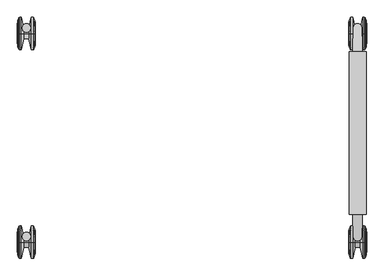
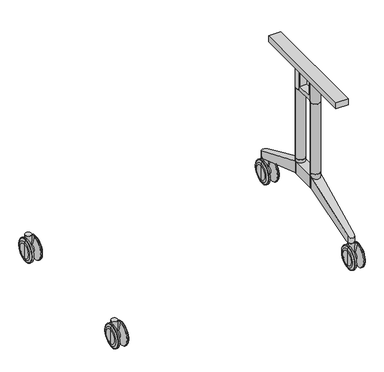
"""IFC4 building model written with IfcOpenShell, lengths in millimetres: furniture geometry."""

from ifc_helpers import new_model, si_unit, point, frame, frame_2d, origin, place, context, project, spatial, polyline, circle_curve, ellipse_curve, trimmed, segment, composite_curve, outline, extrude, source, transform, mapped, element, save
from ifc_brep_helpers import plane_surface, cylinder_surface, revolved_surface, advanced_brep


def furniture_a7c4bc05(model_context):
    return source(origin(), model_context, "Body", "SolidModel", [
        advanced_brep(
        [(535.500346, 204.1135107, 49.9999988), (535.500346, 204.1135107, 19.8683152), (535.500346, 204.1135107, 80.1316828), (480.5003238, 204.1135107, 19.8683152), (480.5003238, 204.1135107, 49.9999988), (480.5003238, 204.1135107, 80.1316828), (484.8165382, 204.1135107, 2.051318), (482.0398166, 204.1135107, 10.381507), (482.0398166, 204.1135107, 89.6184911), (484.8165382, 204.1135107, 97.9486801), (492.500318, 204.1135107, -1.2e-06), (487.6625889, 204.1135107, -1.2e-06), (487.6625889, 204.1135107, 99.9999992), (492.500318, 204.1135107, 99.9999992), (500.5003021, 204.1135107, 35.0000003), (500.5003021, 204.1135107, 64.9999978), (515.5003676, 204.1135107, 35.0000003), (515.5003676, 204.1135107, 64.9999978), (523.5003517, 204.1135107, -1.2e-06), (523.5003517, 204.1135107, 99.9999992), (528.3380808, 204.1135107, -1.2e-06), (528.3380808, 204.1135107, 99.9999992), (533.9608532, 204.1135107, 10.381507), (531.1841316, 204.1135107, 2.051318), (531.1841316, 204.1135107, 97.9486801), (533.9608532, 204.1135107, 89.6184911)],
        [
            (0, 1),
            (1, 2, circle_curve(frame((535.500346, 204.1135107, 49.999999), z_axis=(1.0, 0.0, 0.0), x_axis=(0.0, 0.0, 1.0)), 30.1316838)),
            (2, 0),
            (2, 1, circle_curve(frame((535.500346, 204.1135107, 49.999999), z_axis=(1.0, 0.0, 0.0), x_axis=(0.0, 0.0, 1.0)), 30.1316838)),
            (3, 4),
            (4, 5),
            (5, 3, circle_curve(frame((480.5003238, 204.1135107, 49.999999), z_axis=(-1.0, 0.0, 0.0), x_axis=(0.0, 0.0, 1.0)), 30.1316838)),
            (3, 5, circle_curve(frame((480.5003238, 204.1135107, 49.999999), z_axis=(-1.0, 0.0, 0.0), x_axis=(0.0, 0.0, 1.0)), 30.1316838)),
            (6, 7),
            (7, 8, circle_curve(frame((482.0398166, 204.1135107, 49.999999), z_axis=(1.0, 0.0, 0.0), x_axis=(0.0, 0.0, 1.0)), 39.618492)),
            (8, 9),
            (9, 6, circle_curve(frame((484.8165382, 204.1135107, 49.999999), z_axis=(-1.0, 0.0, 0.0), x_axis=(0.0, 0.0, 1.0)), 47.948681)),
            (8, 7, circle_curve(frame((482.0398166, 204.1135107, 49.999999), z_axis=(1.0, 0.0, 0.0), x_axis=(0.0, 0.0, 1.0)), 39.618492)),
            (6, 9, circle_curve(frame((484.8165382, 204.1135107, 49.999999), z_axis=(-1.0, 0.0, 0.0), x_axis=(0.0, 0.0, 1.0)), 47.948681)),
            (10, 11),
            (11, 12, circle_curve(frame((487.6625889, 204.1135107, 49.999999), z_axis=(1.0, 0.0, 0.0), x_axis=(0.0, 0.0, 1.0)), 50.0000002)),
            (12, 13),
            (13, 10, circle_curve(frame((492.500318, 204.1135107, 49.999999), z_axis=(-1.0, 0.0, 0.0), x_axis=(0.0, 0.0, 1.0)), 50.0000002)),
            (12, 11, circle_curve(frame((487.6625889, 204.1135107, 49.999999), z_axis=(1.0, 0.0, 0.0), x_axis=(0.0, 0.0, 1.0)), 50.0000002)),
            (10, 13, circle_curve(frame((492.500318, 204.1135107, 49.999999), z_axis=(-1.0, 0.0, 0.0), x_axis=(0.0, 0.0, 1.0)), 50.0000002)),
            (14, 10),
            (13, 15),
            (15, 14, circle_curve(frame((500.5003021, 204.1135107, 49.999999), z_axis=(-1.0, 0.0, 0.0), x_axis=(0.0, 0.0, 1.0)), 14.9999987)),
            (14, 15, circle_curve(frame((500.5003021, 204.1135107, 49.999999), z_axis=(-1.0, 0.0, 0.0), x_axis=(0.0, 0.0, 1.0)), 14.9999987)),
            (16, 14),
            (15, 17),
            (17, 16, circle_curve(frame((515.5003676, 204.1135107, 49.999999), z_axis=(-1.0, 0.0, 0.0), x_axis=(0.0, 0.0, 1.0)), 14.9999987)),
            (16, 17, circle_curve(frame((515.5003676, 204.1135107, 49.999999), z_axis=(-1.0, 0.0, 0.0), x_axis=(0.0, 0.0, 1.0)), 14.9999987)),
            (18, 16),
            (17, 19),
            (19, 18, circle_curve(frame((523.5003517, 204.1135107, 49.999999), z_axis=(-1.0, 0.0, 0.0), x_axis=(0.0, 0.0, 1.0)), 50.0000002)),
            (18, 19, circle_curve(frame((523.5003517, 204.1135107, 49.999999), z_axis=(-1.0, 0.0, 0.0), x_axis=(0.0, 0.0, 1.0)), 50.0000002)),
            (20, 18),
            (19, 21),
            (21, 20, circle_curve(frame((528.3380808, 204.1135107, 49.999999), z_axis=(-1.0, 0.0, 0.0), x_axis=(0.0, 0.0, 1.0)), 50.0000002)),
            (20, 21, circle_curve(frame((528.3380808, 204.1135107, 49.999999), z_axis=(-1.0, 0.0, 0.0), x_axis=(0.0, 0.0, 1.0)), 50.0000002)),
            (22, 23),
            (23, 24, circle_curve(frame((531.1841316, 204.1135107, 49.999999), z_axis=(1.0, 0.0, 0.0), x_axis=(0.0, 0.0, 1.0)), 47.948681)),
            (24, 25),
            (25, 22, circle_curve(frame((533.9608532, 204.1135107, 49.999999), z_axis=(-1.0, 0.0, 0.0), x_axis=(0.0, 0.0, 1.0)), 39.618492)),
            (24, 23, circle_curve(frame((531.1841316, 204.1135107, 49.999999), z_axis=(1.0, 0.0, 0.0), x_axis=(0.0, 0.0, 1.0)), 47.948681)),
            (22, 25, circle_curve(frame((533.9608532, 204.1135107, 49.999999), z_axis=(-1.0, 0.0, 0.0), x_axis=(0.0, 0.0, 1.0)), 39.618492)),
            (7, 3, circle_curve(frame((510.5003238, 204.1135107, 19.8683152), z_axis=(0.0, 1.0000000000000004, 0.0), x_axis=(-1.0000000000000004, 0.0, 0.0)), 30.0)),
            (5, 8, circle_curve(frame((510.5003238, 204.1135107, 80.1316828), z_axis=(0.0, 1.0000000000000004, 0.0), x_axis=(-1.0000000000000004, 0.0, 0.0)), 30.0)),
            (11, 6, circle_curve(frame((487.6625889, 204.1135107, 2.9999988), z_axis=(0.0, 1.0000000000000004, 0.0), x_axis=(-1.0000000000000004, 0.0, 0.0)), 3.0)),
            (9, 12, circle_curve(frame((487.6625889, 204.1135107, 96.9999992), z_axis=(0.0, 1.0000000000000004, 0.0), x_axis=(-1.0000000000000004, 0.0, 0.0)), 3.0)),
            (23, 20, circle_curve(frame((528.3380808, 204.1135107, 2.9999988), z_axis=(0.0, 1.0000000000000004, 0.0), x_axis=(-1.0000000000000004, 0.0, 0.0)), 3.0)),
            (21, 24, circle_curve(frame((528.3380808, 204.1135107, 96.9999992), z_axis=(0.0, 1.0000000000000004, 0.0), x_axis=(-1.0000000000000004, 0.0, 0.0)), 3.0)),
            (1, 22, circle_curve(frame((505.500346, 204.1135107, 19.8683152), z_axis=(0.0, 1.0000000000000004, 0.0), x_axis=(-1.0000000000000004, 0.0, 0.0)), 30.0)),
            (25, 2, circle_curve(frame((505.500346, 204.1135107, 80.1316828), z_axis=(0.0, 1.0000000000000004, 0.0), x_axis=(-1.0000000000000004, 0.0, 0.0)), 30.0)),
        ],
        [
            plane_surface(frame((535.500346, 204.1135107, 49.999999), z_axis=(1.0, 0.0, 0.0), x_axis=(0.0, 0.0, 1.0))),
            plane_surface(frame((480.5003238, 204.1135107, 49.999999), z_axis=(-1.0, 0.0, 0.0), x_axis=(0.0, 0.0, 1.0))),
            revolved_surface(polyline([(482.0398166, 204.1135107, 89.6184911), (484.8165382, 204.1135107, 97.9486801)]), (547.0660385, 204.1135107, 49.999999), (1.0000000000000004, 0.0, 0.0)),
            cylinder_surface(frame((547.0660385, 204.1135107, 49.999999), z_axis=(1.0000000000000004, 0.0, 0.0), x_axis=(0.0, 0.0, 1.0)), 50.0000002),
            revolved_surface(polyline([(492.500318, 204.1135107, 99.9999992), (500.5003021, 204.1135107, 64.9999978)]), (547.0660385, 204.1135107, 49.999999), (1.0000000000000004, 0.0, 0.0)),
            cylinder_surface(frame((547.0660385, 204.1135107, 49.999999), z_axis=(1.0000000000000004, 0.0, 0.0), x_axis=(0.0, 0.0, 1.0)), 14.9999987),
            revolved_surface(polyline([(515.5003676, 204.1135107, 64.9999978), (523.5003517, 204.1135107, 99.9999992)]), (547.0660385, 204.1135107, 49.999999), (1.0000000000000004, 0.0, 0.0)),
            revolved_surface(polyline([(531.1841316, 204.1135107, 97.9486801), (533.9608532, 204.1135107, 89.6184911)]), (547.0660385, 204.1135107, 49.999999), (1.0000000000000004, 0.0, 0.0)),
            revolved_surface(trimmed(ellipse_curve(frame((510.5003238, 204.1135107, 80.1316828), z_axis=(0.0, 1.0000000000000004, 0.0), x_axis=(-1.0000000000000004, 0.0, 0.0)), 30.0, 30.0), [point((480.5003238, 204.1135107, 80.1316828))], [point((482.0398166, 204.1135107, 89.6184911))], True, "CARTESIAN"), (547.0660385, 204.1135107, 49.999999), (1.0000000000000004, 0.0, 0.0)),
            revolved_surface(trimmed(ellipse_curve(frame((487.6625889, 204.1135107, 96.9999992), z_axis=(0.0, 1.0000000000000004, 0.0), x_axis=(-1.0000000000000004, 0.0, 0.0)), 3.0, 3.0), [point((484.8165382, 204.1135107, 97.9486801))], [point((487.6625889, 204.1135107, 99.9999992))], True, "CARTESIAN"), (547.0660385, 204.1135107, 49.999999), (1.0000000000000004, 0.0, 0.0)),
            revolved_surface(trimmed(ellipse_curve(frame((528.3380808, 204.1135107, 96.9999992), z_axis=(0.0, 1.0000000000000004, 0.0), x_axis=(-1.0000000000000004, 0.0, 0.0)), 3.0, 3.0), [point((528.3380808, 204.1135107, 99.9999992))], [point((531.1841316, 204.1135107, 97.9486801))], True, "CARTESIAN"), (547.0660385, 204.1135107, 49.999999), (1.0000000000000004, 0.0, 0.0)),
            revolved_surface(trimmed(ellipse_curve(frame((505.500346, 204.1135107, 80.1316828), z_axis=(0.0, 1.0000000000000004, 0.0), x_axis=(-1.0000000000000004, 0.0, 0.0)), 30.0, 30.0), [point((533.9608532, 204.1135107, 89.6184911))], [point((535.500346, 204.1135107, 80.1316828))], True, "CARTESIAN"), (547.0660385, 204.1135107, 49.999999), (1.0000000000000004, 0.0, 0.0)),
        ],
        [
            (0, [[1, 2, 3]]),
            (0, [[-3, 4, -1]]),
            (1, [[5, 6, 7]]),
            (1, [[-6, -5, 8]]),
            (2, [[9, 10, 11, 12]]),
            (2, [[-11, 13, -9, 14]]),
            (3, [[15, 16, 17, 18]]),
            (3, [[-17, 19, -15, 20]]),
            (4, [[21, -18, 22, 23]]),
            (4, [[-22, -20, -21, 24]]),
            (5, [[25, -23, 26, 27]]),
            (5, [[-26, -24, -25, 28]]),
            (6, [[29, -27, 30, 31]]),
            (6, [[-30, -28, -29, 32]]),
            (3, [[33, -31, 34, 35]]),
            (3, [[-34, -32, -33, 36]]),
            (7, [[37, 38, 39, 40]]),
            (7, [[-39, 41, -37, 42]]),
            (8, [[43, -7, 44, -10]]),
            (8, [[-44, -8, -43, -13]]),
            (9, [[45, -12, 46, -16]]),
            (9, [[-46, -14, -45, -19]]),
            (10, [[47, -35, 48, -38]]),
            (10, [[-48, -36, -47, -41]]),
            (11, [[49, -40, 50, -2]]),
            (11, [[-50, -42, -49, -4]]),
        ],
    ),
        extrude(outline(composite_curve([segment(trimmed(circle_curve(frame_2d((508.0003349, 221.5135103)), 13.1), [point((521.1003349, 221.5135103))], [point((494.9003349, 221.5135103))], False, "CARTESIAN"), True, "CONTINUOUS"), segment(trimmed(circle_curve(frame_2d((508.0003349, 221.5135103)), 13.1), [point((494.9003349, 221.5135103))], [point((521.1003349, 221.5135103))], False, "CARTESIAN"), True, "CONTINUOUS")], self_intersect=False)), frame((0.0, 0.0, 50.0), z_axis=(0.0, 0.0, 1.0), x_axis=(1.0, 0.0, 0.0)), (0.0, 0.0, 1.0), 55.0),
        advanced_brep(
        [(480.5003238, -436.9185854, 49.9999992), (480.5003238, -436.9185854, 80.1316828), (480.5003238, -436.9185854, 19.8683152), (535.500346, -436.9185854, 19.8683152), (535.500346, -436.9185854, 80.1316828), (535.500346, -436.9185854, 49.9999992), (531.1841316, -436.9185854, 2.051318), (531.1841316, -436.9185854, 97.9486801), (533.9608532, -436.9185854, 89.6184911), (533.9608532, -436.9185854, 10.381507), (523.5003517, -436.9185854, -1.2e-06), (523.5003517, -436.9185854, 99.9999992), (528.3380808, -436.9185854, 99.9999992), (528.3380808, -436.9185854, -1.2e-06), (515.5003676, -436.9185854, 35.0000003), (515.5003676, -436.9185854, 64.9999978), (500.5003021, -436.9185854, 35.0000003), (500.5003021, -436.9185854, 64.9999978), (492.500318, -436.9185854, -1.2e-06), (492.500318, -436.9185854, 99.9999992), (487.6625889, -436.9185854, -1.2e-06), (487.6625889, -436.9185854, 99.9999992), (482.0398166, -436.9185854, 10.381507), (482.0398166, -436.9185854, 89.6184911), (484.8165382, -436.9185854, 97.9486801), (484.8165382, -436.9185854, 2.051318)],
        [
            (0, 1),
            (1, 2, circle_curve(frame((480.5003238, -436.9185854, 49.999999), z_axis=(-1.0, 0.0, 0.0), x_axis=(0.0, 0.0, 1.0)), 30.1316838)),
            (2, 0),
            (2, 1, circle_curve(frame((480.5003238, -436.9185854, 49.999999), z_axis=(-1.0, 0.0, 0.0), x_axis=(0.0, 0.0, 1.0)), 30.1316838)),
            (3, 4, circle_curve(frame((535.500346, -436.9185854, 49.999999), z_axis=(1.0, 0.0, 0.0), x_axis=(0.0, 0.0, 1.0)), 30.1316838)),
            (4, 5),
            (5, 3),
            (4, 3, circle_curve(frame((535.500346, -436.9185854, 49.999999), z_axis=(1.0, 0.0, 0.0), x_axis=(0.0, 0.0, 1.0)), 30.1316838)),
            (6, 7, circle_curve(frame((531.1841316, -436.9185854, 49.999999), z_axis=(1.0, 0.0, 0.0), x_axis=(0.0, 0.0, 1.0)), 47.948681)),
            (7, 8),
            (8, 9, circle_curve(frame((533.9608532, -436.9185854, 49.999999), z_axis=(-1.0, 0.0, 0.0), x_axis=(0.0, 0.0, 1.0)), 39.618492)),
            (9, 6),
            (7, 6, circle_curve(frame((531.1841316, -436.9185854, 49.999999), z_axis=(1.0, 0.0, 0.0), x_axis=(0.0, 0.0, 1.0)), 47.948681)),
            (9, 8, circle_curve(frame((533.9608532, -436.9185854, 49.999999), z_axis=(-1.0, 0.0, 0.0), x_axis=(0.0, 0.0, 1.0)), 39.618492)),
            (10, 11, circle_curve(frame((523.5003517, -436.9185854, 49.999999), z_axis=(1.0, 0.0, 0.0), x_axis=(0.0, 0.0, 1.0)), 50.0000002)),
            (11, 12),
            (12, 13, circle_curve(frame((528.3380808, -436.9185854, 49.999999), z_axis=(-1.0, 0.0, 0.0), x_axis=(0.0, 0.0, 1.0)), 50.0000002)),
            (13, 10),
            (11, 10, circle_curve(frame((523.5003517, -436.9185854, 49.999999), z_axis=(1.0, 0.0, 0.0), x_axis=(0.0, 0.0, 1.0)), 50.0000002)),
            (13, 12, circle_curve(frame((528.3380808, -436.9185854, 49.999999), z_axis=(-1.0, 0.0, 0.0), x_axis=(0.0, 0.0, 1.0)), 50.0000002)),
            (14, 15, circle_curve(frame((515.5003676, -436.9185854, 49.999999), z_axis=(1.0, 0.0, 0.0), x_axis=(0.0, 0.0, 1.0)), 14.9999987)),
            (15, 11),
            (10, 14),
            (15, 14, circle_curve(frame((515.5003676, -436.9185854, 49.999999), z_axis=(1.0, 0.0, 0.0), x_axis=(0.0, 0.0, 1.0)), 14.9999987)),
            (16, 17, circle_curve(frame((500.5003021, -436.9185854, 49.999999), z_axis=(1.0, 0.0, 0.0), x_axis=(0.0, 0.0, 1.0)), 14.9999987)),
            (17, 15),
            (14, 16),
            (17, 16, circle_curve(frame((500.5003021, -436.9185854, 49.999999), z_axis=(1.0, 0.0, 0.0), x_axis=(0.0, 0.0, 1.0)), 14.9999987)),
            (18, 19, circle_curve(frame((492.500318, -436.9185854, 49.999999), z_axis=(1.0, 0.0, 0.0), x_axis=(0.0, 0.0, 1.0)), 50.0000002)),
            (19, 17),
            (16, 18),
            (19, 18, circle_curve(frame((492.500318, -436.9185854, 49.999999), z_axis=(1.0, 0.0, 0.0), x_axis=(0.0, 0.0, 1.0)), 50.0000002)),
            (20, 21, circle_curve(frame((487.6625889, -436.9185854, 49.999999), z_axis=(1.0, 0.0, 0.0), x_axis=(0.0, 0.0, 1.0)), 50.0000002)),
            (21, 19),
            (18, 20),
            (21, 20, circle_curve(frame((487.6625889, -436.9185854, 49.999999), z_axis=(1.0, 0.0, 0.0), x_axis=(0.0, 0.0, 1.0)), 50.0000002)),
            (22, 23, circle_curve(frame((482.0398166, -436.9185854, 49.999999), z_axis=(1.0, 0.0, 0.0), x_axis=(0.0, 0.0, 1.0)), 39.618492)),
            (23, 24),
            (24, 25, circle_curve(frame((484.8165382, -436.9185854, 49.999999), z_axis=(-1.0, 0.0, 0.0), x_axis=(0.0, 0.0, 1.0)), 47.948681)),
            (25, 22),
            (23, 22, circle_curve(frame((482.0398166, -436.9185854, 49.999999), z_axis=(1.0, 0.0, 0.0), x_axis=(0.0, 0.0, 1.0)), 39.618492)),
            (25, 24, circle_curve(frame((484.8165382, -436.9185854, 49.999999), z_axis=(-1.0, 0.0, 0.0), x_axis=(0.0, 0.0, 1.0)), 47.948681)),
            (8, 4, circle_curve(frame((505.500346, -436.9185854, 80.1316828), z_axis=(0.0, 1.0, 0.0), x_axis=(1.0, 0.0, 0.0)), 30.0)),
            (3, 9, circle_curve(frame((505.500346, -436.9185854, 19.8683152), z_axis=(0.0, 1.0, 0.0), x_axis=(1.0, 0.0, 0.0)), 30.0)),
            (12, 7, circle_curve(frame((528.3380808, -436.9185854, 96.9999992), z_axis=(0.0, 1.0, 0.0), x_axis=(1.0, 0.0, 0.0)), 3.0)),
            (6, 13, circle_curve(frame((528.3380808, -436.9185854, 2.9999988), z_axis=(0.0, 1.0, 0.0), x_axis=(1.0, 0.0, 0.0)), 3.0)),
            (24, 21, circle_curve(frame((487.6625889, -436.9185854, 96.9999992), z_axis=(0.0, 1.0, 0.0), x_axis=(1.0, 0.0, 0.0)), 3.0)),
            (20, 25, circle_curve(frame((487.6625889, -436.9185854, 2.9999988), z_axis=(0.0, 1.0, 0.0), x_axis=(1.0, 0.0, 0.0)), 3.0)),
            (1, 23, circle_curve(frame((510.5003238, -436.9185854, 80.1316828), z_axis=(0.0, 1.0, 0.0), x_axis=(1.0, 0.0, 0.0)), 30.0)),
            (22, 2, circle_curve(frame((510.5003238, -436.9185854, 19.8683152), z_axis=(0.0, 1.0, 0.0), x_axis=(1.0, 0.0, 0.0)), 30.0)),
        ],
        [
            plane_surface(frame((480.5003238, -436.9185854, 49.999999), z_axis=(-1.0, 0.0, 0.0), x_axis=(0.0, 0.0, 1.0))),
            plane_surface(frame((535.500346, -436.9185854, 49.999999), z_axis=(1.0, 0.0, 0.0), x_axis=(0.0, 0.0, 1.0))),
            revolved_surface(polyline([(533.9608532, -436.9185854, 89.6184911), (531.1841316, -436.9185854, 97.9486801)]), (468.9346312, -436.9185854, 49.999999), (-1.0, 0.0, 0.0)),
            cylinder_surface(frame((468.9346312, -436.9185854, 49.999999), z_axis=(-1.0, 0.0, 0.0), x_axis=(0.0, 0.0, 1.0)), 50.0000002),
            revolved_surface(polyline([(523.5003517, -436.9185854, 99.9999992), (515.5003676, -436.9185854, 64.9999978)]), (468.9346312, -436.9185854, 49.999999), (-1.0, 0.0, 0.0)),
            cylinder_surface(frame((468.9346312, -436.9185854, 49.999999), z_axis=(-1.0, 0.0, 0.0), x_axis=(0.0, 0.0, 1.0)), 14.9999987),
            revolved_surface(polyline([(500.5003021, -436.9185854, 64.9999978), (492.500318, -436.9185854, 99.9999992)]), (468.9346312, -436.9185854, 49.999999), (-1.0, 0.0, 0.0)),
            revolved_surface(polyline([(484.8165382, -436.9185854, 97.9486801), (482.0398166, -436.9185854, 89.6184911)]), (468.9346312, -436.9185854, 49.999999), (-1.0, 0.0, 0.0)),
            revolved_surface(trimmed(ellipse_curve(frame((505.500346, -436.9185854, 80.1316828), z_axis=(0.0, -1.0, 0.0), x_axis=(1.0, 0.0, 0.0)), 30.0, 30.0), [point((535.500346, -436.9185854, 80.1316828))], [point((533.9608532, -436.9185854, 89.6184911))], True, "CARTESIAN"), (468.9346312, -436.9185854, 49.999999), (-1.0, 0.0, 0.0)),
            revolved_surface(trimmed(ellipse_curve(frame((528.3380808, -436.9185854, 96.9999992), z_axis=(0.0, -1.0, 0.0), x_axis=(1.0, 0.0, 0.0)), 3.0, 3.0), [point((531.1841316, -436.9185854, 97.9486801))], [point((528.3380808, -436.9185854, 99.9999992))], True, "CARTESIAN"), (468.9346312, -436.9185854, 49.999999), (-1.0, 0.0, 0.0)),
            revolved_surface(trimmed(ellipse_curve(frame((487.6625889, -436.9185854, 96.9999992), z_axis=(0.0, -1.0, 0.0), x_axis=(1.0, 0.0, 0.0)), 3.0, 3.0), [point((487.6625889, -436.9185854, 99.9999992))], [point((484.8165382, -436.9185854, 97.9486801))], True, "CARTESIAN"), (468.9346312, -436.9185854, 49.999999), (-1.0, 0.0, 0.0)),
            revolved_surface(trimmed(ellipse_curve(frame((510.5003238, -436.9185854, 80.1316828), z_axis=(0.0, -1.0, 0.0), x_axis=(1.0, 0.0, 0.0)), 30.0, 30.0), [point((482.0398166, -436.9185854, 89.6184911))], [point((480.5003238, -436.9185854, 80.1316828))], True, "CARTESIAN"), (468.9346312, -436.9185854, 49.999999), (-1.0, 0.0, 0.0)),
        ],
        [
            (0, [[1, 2, 3]]),
            (0, [[-3, 4, -1]]),
            (1, [[5, 6, 7]]),
            (1, [[8, -7, -6]]),
            (2, [[9, 10, 11, 12]]),
            (2, [[13, -12, 14, -10]]),
            (3, [[15, 16, 17, 18]]),
            (3, [[19, -18, 20, -16]]),
            (4, [[21, 22, -15, 23]]),
            (4, [[24, -23, -19, -22]]),
            (5, [[25, 26, -21, 27]]),
            (5, [[28, -27, -24, -26]]),
            (6, [[29, 30, -25, 31]]),
            (6, [[32, -31, -28, -30]]),
            (3, [[33, 34, -29, 35]]),
            (3, [[36, -35, -32, -34]]),
            (7, [[37, 38, 39, 40]]),
            (7, [[41, -40, 42, -38]]),
            (8, [[-11, 43, -5, 44]]),
            (8, [[-14, -44, -8, -43]]),
            (9, [[-17, 45, -9, 46]]),
            (9, [[-20, -46, -13, -45]]),
            (10, [[-39, 47, -33, 48]]),
            (10, [[-42, -48, -36, -47]]),
            (11, [[-2, 49, -37, 50]]),
            (11, [[-4, -50, -41, -49]]),
        ],
    ),
        extrude(outline(composite_curve([segment(trimmed(circle_curve(frame_2d((508.0003349, -419.5185858)), 13.1), [point((494.9003349, -419.5185858))], [point((521.1003349, -419.5185858))], False, "CARTESIAN"), True, "CONTINUOUS"), segment(trimmed(circle_curve(frame_2d((508.0003349, -419.5185858)), 13.1), [point((521.1003349, -419.5185858))], [point((494.9003349, -419.5185858))], False, "CARTESIAN"), True, "CONTINUOUS")], self_intersect=False)), frame((0.0, 0.0, 50.0), z_axis=(0.0, 0.0, 1.0), x_axis=(1.0, 0.0, 0.0)), (0.0, 0.0, 1.0), 55.0),
        extrude(outline(composite_curve([segment(trimmed(circle_curve(frame_2d((508.0, -154.0488451)), 20.0), [point((488.0, -154.0488451))], [point((528.0, -154.0488451))], False, "CARTESIAN"), True, "CONTINUOUS"), segment(trimmed(circle_curve(frame_2d((508.0, -154.0488451)), 20.0), [point((528.0, -154.0488451))], [point((488.0, -154.0488451))], False, "CARTESIAN"), True, "CONTINUOUS")], self_intersect=False)), frame((0.0, 0.0, 193.3080085), z_axis=(0.0, 0.0, 1.0), x_axis=(1.0, 0.0, 0.0)), (0.0, 0.0, 1.0), 68.8536941),
        extrude(outline(composite_curve([segment(trimmed(circle_curve(frame_2d((508.0, -44.0488461)), 20.0), [point((488.0, -44.0488461))], [point((528.0, -44.0488461))], False, "CARTESIAN"), True, "CONTINUOUS"), segment(trimmed(circle_curve(frame_2d((508.0, -44.0488461)), 20.0), [point((528.0, -44.0488461))], [point((488.0, -44.0488461))], False, "CARTESIAN"), True, "CONTINUOUS")], self_intersect=False)), frame((0.0, 0.0, 193.3080085), z_axis=(0.0, 0.0, 1.0), x_axis=(1.0, 0.0, 0.0)), (0.0, 0.0, 1.0), 68.8536941),
        extrude(outline(composite_curve([segment(trimmed(circle_curve(frame_2d((508.0, -154.0488451)), 20.0), [point((488.0, -154.0488451))], [point((528.0, -154.0488451))], False, "CARTESIAN"), True, "CONTINUOUS"), segment(trimmed(circle_curve(frame_2d((508.0, -154.0488451)), 20.0), [point((528.0, -154.0488451))], [point((488.0, -154.0488451))], False, "CARTESIAN"), True, "CONTINUOUS")], self_intersect=False)), frame((0.0, 0.0, 262.1617027), z_axis=(0.0, 0.0, 1.0), x_axis=(1.0, 0.0, 0.0)), (0.0, 0.0, 1.0), 318.0882973),
        extrude(outline(composite_curve([segment(trimmed(circle_curve(frame_2d((508.0, -44.0488461)), 20.0), [point((488.0, -44.0488461))], [point((528.0, -44.0488461))], False, "CARTESIAN"), True, "CONTINUOUS"), segment(trimmed(circle_curve(frame_2d((508.0, -44.0488461)), 20.0), [point((528.0, -44.0488461))], [point((488.0, -44.0488461))], False, "CARTESIAN"), True, "CONTINUOUS")], self_intersect=False)), frame((0.0, 0.0, 262.1617027), z_axis=(0.0, 0.0, 1.0), x_axis=(1.0, 0.0, 0.0)), (0.0, 0.0, 1.0), 318.0882973),
        extrude(outline(polyline([(534.0000118, 147.9511612), (534.0000118, -352.0488426), (481.9999882, -352.0488426), (481.9999882, 147.9511612), (534.0000118, 147.9511612)])), frame((0.0, 0.0, 676.2500168), z_axis=(0.0, 0.0, 1.0), x_axis=(1.0, 0.0, 0.0)), (0.0, 0.0, 1.0), 27.9999624),
        advanced_brep(
        [(493.0001238, -140.8200278, 676.2500168), (523.0001095, -140.8201331, 676.2500168), (523.0001095, -134.0488456, 676.2500168), (493.0001238, -134.0488456, 676.2500168), (523.0001095, -57.2775581, 676.2500168), (493.0001238, -57.2776634, 676.2500168), (493.0001238, -64.0488456, 676.2500168), (523.0001095, -64.0488456, 676.2500168), (493.0001238, -57.2776634, 580.25), (523.0001095, -57.2775581, 580.25), (523.0001095, -140.8201331, 580.25), (493.0001238, -140.8200278, 580.25), (493.0001238, -134.0488456, 598.2500176), (493.0001238, -64.0488456, 598.2500176), (523.0001095, -64.0488456, 598.2500176), (523.0001095, -134.0488456, 598.2500176)],
        [
            (0, 1, circle_curve(frame((508.0000702, -154.0488451, 676.2500168), z_axis=(0.0, 0.0, 1.0), x_axis=(1.0, 0.0, 0.0)), 20.0)),
            (1, 2),
            (2, 3),
            (3, 0),
            (4, 5, circle_curve(frame((508.0000702, -44.0488461, 676.2500168), z_axis=(0.0, 0.0, 1.0), x_axis=(1.0, 0.0, 0.0)), 20.0)),
            (5, 6),
            (6, 7),
            (7, 4),
            (8, 9, circle_curve(frame((508.0000702, -44.0488461, 580.25), z_axis=(0.0, 0.0, -1.0), x_axis=(1.0, 0.0, 0.0)), 20.0)),
            (9, 10),
            (10, 11, circle_curve(frame((508.0000702, -154.0488451, 580.25), z_axis=(0.0, 0.0, -1.0), x_axis=(1.0, 0.0, 0.0)), 20.0)),
            (11, 8),
            (11, 0),
            (3, 12),
            (12, 13),
            (13, 6),
            (5, 8),
            (10, 1),
            (9, 4),
            (7, 14),
            (14, 15),
            (15, 2),
            (15, 12),
            (14, 13),
        ],
        [
            plane_surface(frame((493.0001238, -140.8200278, 676.2500168), z_axis=(0.0, 0.0, 1.0), x_axis=(0.0, -1.0, 0.0))),
            plane_surface(frame((493.0001238, -140.8200278, 580.25), z_axis=(0.0, 0.0, -1.0), x_axis=(0.0, 1.0, 0.0))),
            plane_surface(frame((493.0001238, -57.2776634, 676.2500168), z_axis=(-1.0, 0.0, 0.0), x_axis=(0.0, 0.0, -1.0))),
            cylinder_surface(frame((508.0000702, -154.0488451, 580.25), z_axis=(0.0, 0.0, 1.0), x_axis=(1.0, 0.0, 0.0)), 20.0),
            plane_surface(frame((523.0001095, -140.8201331, 676.2500168), z_axis=(1.0, 0.0, 0.0), x_axis=(0.0, 0.0, -1.0))),
            cylinder_surface(frame((508.0000702, -44.0488461, 580.25), z_axis=(0.0, 0.0, 1.0), x_axis=(1.0, 0.0, 0.0)), 20.0),
            plane_surface(frame((523.0001095, -134.0488456, 676.2500168), z_axis=(0.0, 1.0, 0.0), x_axis=(-1.0, 0.0, 0.0))),
            plane_surface(frame((523.0001095, -134.0488456, 598.2500176), z_axis=(0.0, 0.0, 1.0), x_axis=(-1.0, 0.0, 0.0))),
            plane_surface(frame((523.0001095, -64.0488456, 598.2500176), z_axis=(0.0, -1.0, 0.0), x_axis=(-1.0, 0.0, 0.0))),
        ],
        [
            (0, [[1, 2, 3, 4]]),
            (0, [[5, 6, 7, 8]]),
            (1, [[9, 10, 11, 12]]),
            (2, [[-12, 13, -4, 14, 15, 16, -6, 17]]),
            (3, [[-1, -13, -11, 18]]),
            (4, [[-10, 19, -8, 20, 21, 22, -2, -18]]),
            (5, [[-5, -19, -9, -17]]),
            (6, [[23, -14, -3, -22]]),
            (7, [[-23, -21, 24, -15]]),
            (8, [[-24, -20, -7, -16]]),
        ],
    ),
        advanced_brep(
        [(527.9999818, -154.0488451, 248.3080085), (527.9999818, -44.0488461, 248.3080085), (487.9999818, -44.0488461, 248.3080085), (487.9999818, -154.0488451, 248.3080085), (487.9999818, -44.0488461, 193.3080085), (487.9999818, -154.0488451, 193.3080085), (527.9999818, -154.0488451, 193.3080085), (527.9999818, -44.0488461, 193.3080085), (521.4728951, 208.4135103, 105.0), (494.527103, 208.4135103, 105.0), (494.8737706, 221.8222582, 105.0), (521.1262294, 221.8222564, 105.0), (494.8737706, 221.8222582, 133.4205559), (521.1262294, 221.8222564, 133.4205567), (527.7999588, -36.3121196, 193.3080085), (488.2000059, -36.3121196, 193.3080085), (521.1262294, -419.9199475, 133.4205567), (494.8737706, -419.9199493, 133.4205559), (521.1262294, -419.9199475, 105.0), (521.4728951, -406.5112014, 105.0), (527.7999588, -161.7855715, 193.3080085), (494.8737706, -419.9199493, 105.0), (488.2000059, -161.7855715, 193.3080085), (494.527103, -406.5112014, 105.0)],
        [
            (0, 1),
            (1, 2),
            (2, 3),
            (3, 0),
            (2, 4),
            (4, 5),
            (5, 3),
            (0, 6),
            (6, 7),
            (7, 1),
            (8, 9),
            (9, 10),
            (10, 11, circle_curve(frame((508.0, 221.4828948, 105.0), z_axis=(0.0, 0.0, -1.0), x_axis=(1.0, 0.0, 0.0)), 13.1306156)),
            (11, 8),
            (12, 2),
            (1, 13),
            (13, 12, ellipse_curve(frame((508.0, 221.4828948, 133.5672007), z_axis=(0.0, 0.3966672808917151, 0.9179624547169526), x_axis=(0.0, 0.9179624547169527, -0.39666728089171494)), 14.3040878, 13.1306156)),
            (8, 14),
            (14, 15),
            (15, 9),
            (16, 0),
            (3, 17),
            (17, 16, ellipse_curve(frame((508.0, -419.5805859, 133.5672007), z_axis=(0.0, -0.3966672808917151, 0.9179624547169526), x_axis=(0.0, -0.9179624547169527, -0.39666728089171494)), 14.3040878, 13.1306156)),
            (16, 18),
            (18, 19),
            (19, 20),
            (20, 6),
            (17, 21),
            (21, 18, circle_curve(frame((508.0, -419.5805859, 105.0), z_axis=(0.0, 0.0, 1.0), x_axis=(1.0, 0.0, 0.0)), 13.1306156)),
            (5, 22),
            (22, 23),
            (23, 21),
            (12, 10),
            (15, 4),
            (13, 11),
            (7, 14),
            (23, 19),
            (22, 20),
        ],
        [
            plane_surface(frame((527.9999818, -44.0488461, 248.3080085), z_axis=(0.0, 0.0, 1.0), x_axis=(0.0, 1.0, 0.0))),
            plane_surface(frame((487.9999818, -44.0488461, 248.3080085), z_axis=(-1.0, 0.0, 0.0), x_axis=(0.0, 0.0, -1.0))),
            plane_surface(frame((527.9999818, -154.0488451, 248.3080085), z_axis=(1.0, 0.0, 0.0), x_axis=(0.0, 0.0, -1.0))),
            plane_surface(frame((529.3794585, 208.4135103, 105.0), z_axis=(0.0, 0.0, -1.0), x_axis=(-1.0, 0.0, 0.0))),
            plane_surface(frame((529.3794585, 235.9511544, 127.3152182), z_axis=(0.0, 0.3966672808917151, 0.9179624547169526), x_axis=(-1.0, 0.0, 0.0))),
            plane_surface(frame((529.3794585, -36.3121196, 193.3080085), z_axis=(0.0, -0.3394229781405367, -0.9406338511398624), x_axis=(-1.0, 0.0, 0.0))),
            plane_surface(frame((529.3794585, -154.0488451, 248.3080085), z_axis=(0.0, -0.3966672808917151, 0.9179624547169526), x_axis=(-1.0, 0.0, 0.0))),
            plane_surface(frame((527.9999818, -154.0488451, 249.0000084), z_axis=(0.9996659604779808, -0.025845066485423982, 0.0), x_axis=(0.0, 0.0, -1.0))),
            cylinder_surface(frame((508.0, -419.5805859, 90.0000025), z_axis=(0.0, 0.0, -1.0), x_axis=(1.0, 0.0, 0.0)), 13.1306156),
            plane_surface(frame((494.8737706, -419.9199493, 249.0000084), z_axis=(-0.9996659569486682, -0.025845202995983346, 0.0), x_axis=(0.0, 0.0, -1.0))),
            plane_surface(frame((487.9999818, -44.0488461, 249.0000084), z_axis=(-0.9996659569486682, 0.025845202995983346, 0.0), x_axis=(0.0, 0.0, -1.0))),
            cylinder_surface(frame((508.0, 221.4828948, 0.0), z_axis=(0.0, 0.0, -1.0), x_axis=(1.0, 0.0, 0.0)), 13.1306156),
            plane_surface(frame((521.1262294, 221.8222564, 249.0000084), z_axis=(0.9996659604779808, 0.025845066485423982, 0.0), x_axis=(0.0, 0.0, -1.0))),
            plane_surface(frame((529.3794585, -434.0488456, 105.0), z_axis=(0.0, 0.0, -1.0), x_axis=(-1.0, 0.0, 0.0))),
            plane_surface(frame((529.3794585, -406.5112014, 105.0), z_axis=(0.0, 0.3394229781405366, -0.9406338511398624), x_axis=(-1.0, 0.0, 0.0))),
            plane_surface(frame((529.3794585, -44.0488461, 193.3080085), z_axis=(0.0, 0.0, -1.0), x_axis=(-1.0, 0.0, 0.0))),
        ],
        [
            (0, [[1, 2, 3, 4]]),
            (1, [[-3, 5, 6, 7]]),
            (2, [[-1, 8, 9, 10]]),
            (3, [[11, 12, 13, 14]]),
            (4, [[15, -2, 16, 17]]),
            (5, [[-11, 18, 19, 20]]),
            (6, [[21, -4, 22, 23]]),
            (7, [[24, 25, 26, 27, -8, -21]]),
            (8, [[-24, -23, 28, 29]]),
            (9, [[-28, -22, -7, 30, 31, 32]]),
            (10, [[33, -12, -20, 34, -5, -15]]),
            (11, [[-33, -17, 35, -13]]),
            (12, [[-35, -16, -10, 36, -18, -14]]),
            (13, [[37, -25, -29, -32]]),
            (14, [[-37, -31, 38, -26]]),
            (15, [[-19, -36, -9, -27, -38, -30, -6, -34]]),
        ],
    ),
        advanced_brep(
        [(-480.499654, 204.1135107, 49.9999988), (-480.499654, 204.1135107, 19.8683152), (-480.499654, 204.1135107, 80.1316828), (-535.4996762, 204.1135107, 19.8683152), (-535.4996762, 204.1135107, 49.9999988), (-535.4996762, 204.1135107, 80.1316828), (-531.1834618, 204.1135107, 2.051318), (-533.9601834, 204.1135107, 10.381507), (-533.9601834, 204.1135107, 89.6184911), (-531.1834618, 204.1135107, 97.9486801), (-523.499682, 204.1135107, -1.2e-06), (-528.3374111, 204.1135107, -1.2e-06), (-528.3374111, 204.1135107, 99.9999992), (-523.499682, 204.1135107, 99.9999992), (-515.4996979, 204.1135107, 35.0000003), (-515.4996979, 204.1135107, 64.9999978), (-500.4996324, 204.1135107, 35.0000003), (-500.4996324, 204.1135107, 64.9999978), (-492.4996483, 204.1135107, -1.2e-06), (-492.4996483, 204.1135107, 99.9999992), (-487.6619192, 204.1135107, -1.2e-06), (-487.6619192, 204.1135107, 99.9999992), (-482.0391468, 204.1135107, 10.381507), (-484.8158684, 204.1135107, 2.051318), (-484.8158684, 204.1135107, 97.9486801), (-482.0391468, 204.1135107, 89.6184911)],
        [
            (0, 1),
            (1, 2, circle_curve(frame((-480.499654, 204.1135107, 49.999999), z_axis=(1.0, 0.0, 0.0), x_axis=(0.0, 0.0, 1.0)), 30.1316838)),
            (2, 0),
            (2, 1, circle_curve(frame((-480.499654, 204.1135107, 49.999999), z_axis=(1.0, 0.0, 0.0), x_axis=(0.0, 0.0, 1.0)), 30.1316838)),
            (3, 4),
            (4, 5),
            (5, 3, circle_curve(frame((-535.4996762, 204.1135107, 49.999999), z_axis=(-1.0, 0.0, 0.0), x_axis=(0.0, 0.0, 1.0)), 30.1316838)),
            (3, 5, circle_curve(frame((-535.4996762, 204.1135107, 49.999999), z_axis=(-1.0, 0.0, 0.0), x_axis=(0.0, 0.0, 1.0)), 30.1316838)),
            (6, 7),
            (7, 8, circle_curve(frame((-533.9601834, 204.1135107, 49.999999), z_axis=(1.0, 0.0, 0.0), x_axis=(0.0, 0.0, 1.0)), 39.618492)),
            (8, 9),
            (9, 6, circle_curve(frame((-531.1834618, 204.1135107, 49.999999), z_axis=(-1.0, 0.0, 0.0), x_axis=(0.0, 0.0, 1.0)), 47.948681)),
            (8, 7, circle_curve(frame((-533.9601834, 204.1135107, 49.999999), z_axis=(1.0, 0.0, 0.0), x_axis=(0.0, 0.0, 1.0)), 39.618492)),
            (6, 9, circle_curve(frame((-531.1834618, 204.1135107, 49.999999), z_axis=(-1.0, 0.0, 0.0), x_axis=(0.0, 0.0, 1.0)), 47.948681)),
            (10, 11),
            (11, 12, circle_curve(frame((-528.3374111, 204.1135107, 49.999999), z_axis=(1.0, 0.0, 0.0), x_axis=(0.0, 0.0, 1.0)), 50.0000002)),
            (12, 13),
            (13, 10, circle_curve(frame((-523.499682, 204.1135107, 49.999999), z_axis=(-1.0, 0.0, 0.0), x_axis=(0.0, 0.0, 1.0)), 50.0000002)),
            (12, 11, circle_curve(frame((-528.3374111, 204.1135107, 49.999999), z_axis=(1.0, 0.0, 0.0), x_axis=(0.0, 0.0, 1.0)), 50.0000002)),
            (10, 13, circle_curve(frame((-523.499682, 204.1135107, 49.999999), z_axis=(-1.0, 0.0, 0.0), x_axis=(0.0, 0.0, 1.0)), 50.0000002)),
            (14, 10),
            (13, 15),
            (15, 14, circle_curve(frame((-515.4996979, 204.1135107, 49.999999), z_axis=(-1.0, 0.0, 0.0), x_axis=(0.0, 0.0, 1.0)), 14.9999987)),
            (14, 15, circle_curve(frame((-515.4996979, 204.1135107, 49.999999), z_axis=(-1.0, 0.0, 0.0), x_axis=(0.0, 0.0, 1.0)), 14.9999987)),
            (16, 14),
            (15, 17),
            (17, 16, circle_curve(frame((-500.4996324, 204.1135107, 49.999999), z_axis=(-1.0, 0.0, 0.0), x_axis=(0.0, 0.0, 1.0)), 14.9999987)),
            (16, 17, circle_curve(frame((-500.4996324, 204.1135107, 49.999999), z_axis=(-1.0, 0.0, 0.0), x_axis=(0.0, 0.0, 1.0)), 14.9999987)),
            (18, 16),
            (17, 19),
            (19, 18, circle_curve(frame((-492.4996483, 204.1135107, 49.999999), z_axis=(-1.0, 0.0, 0.0), x_axis=(0.0, 0.0, 1.0)), 50.0000002)),
            (18, 19, circle_curve(frame((-492.4996483, 204.1135107, 49.999999), z_axis=(-1.0, 0.0, 0.0), x_axis=(0.0, 0.0, 1.0)), 50.0000002)),
            (20, 18),
            (19, 21),
            (21, 20, circle_curve(frame((-487.6619192, 204.1135107, 49.999999), z_axis=(-1.0, 0.0, 0.0), x_axis=(0.0, 0.0, 1.0)), 50.0000002)),
            (20, 21, circle_curve(frame((-487.6619192, 204.1135107, 49.999999), z_axis=(-1.0, 0.0, 0.0), x_axis=(0.0, 0.0, 1.0)), 50.0000002)),
            (22, 23),
            (23, 24, circle_curve(frame((-484.8158684, 204.1135107, 49.999999), z_axis=(1.0, 0.0, 0.0), x_axis=(0.0, 0.0, 1.0)), 47.948681)),
            (24, 25),
            (25, 22, circle_curve(frame((-482.0391468, 204.1135107, 49.999999), z_axis=(-1.0, 0.0, 0.0), x_axis=(0.0, 0.0, 1.0)), 39.618492)),
            (24, 23, circle_curve(frame((-484.8158684, 204.1135107, 49.999999), z_axis=(1.0, 0.0, 0.0), x_axis=(0.0, 0.0, 1.0)), 47.948681)),
            (22, 25, circle_curve(frame((-482.0391468, 204.1135107, 49.999999), z_axis=(-1.0, 0.0, 0.0), x_axis=(0.0, 0.0, 1.0)), 39.618492)),
            (7, 3, circle_curve(frame((-505.4996762, 204.1135107, 19.8683152), z_axis=(0.0, 1.0000000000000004, 0.0), x_axis=(-1.0000000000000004, 0.0, 0.0)), 30.0)),
            (5, 8, circle_curve(frame((-505.4996762, 204.1135107, 80.1316828), z_axis=(0.0, 1.0000000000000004, 0.0), x_axis=(-1.0000000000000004, 0.0, 0.0)), 30.0)),
            (11, 6, circle_curve(frame((-528.3374111, 204.1135107, 2.9999988), z_axis=(0.0, 1.0000000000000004, 0.0), x_axis=(-1.0000000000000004, 0.0, 0.0)), 3.0)),
            (9, 12, circle_curve(frame((-528.3374111, 204.1135107, 96.9999992), z_axis=(0.0, 1.0000000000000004, 0.0), x_axis=(-1.0000000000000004, 0.0, 0.0)), 3.0)),
            (23, 20, circle_curve(frame((-487.6619192, 204.1135107, 2.9999988), z_axis=(0.0, 1.0000000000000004, 0.0), x_axis=(-1.0000000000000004, 0.0, 0.0)), 3.0)),
            (21, 24, circle_curve(frame((-487.6619192, 204.1135107, 96.9999992), z_axis=(0.0, 1.0000000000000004, 0.0), x_axis=(-1.0000000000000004, 0.0, 0.0)), 3.0)),
            (1, 22, circle_curve(frame((-510.499654, 204.1135107, 19.8683152), z_axis=(0.0, 1.0000000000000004, 0.0), x_axis=(-1.0000000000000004, 0.0, 0.0)), 30.0)),
            (25, 2, circle_curve(frame((-510.499654, 204.1135107, 80.1316828), z_axis=(0.0, 1.0000000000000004, 0.0), x_axis=(-1.0000000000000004, 0.0, 0.0)), 30.0)),
        ],
        [
            plane_surface(frame((-480.499654, 204.1135107, 49.999999), z_axis=(1.0, 0.0, 0.0), x_axis=(0.0, 0.0, 1.0))),
            plane_surface(frame((-535.4996762, 204.1135107, 49.999999), z_axis=(-1.0, 0.0, 0.0), x_axis=(0.0, 0.0, 1.0))),
            revolved_surface(polyline([(-533.9601834, 204.1135107, 89.6184911), (-531.1834618, 204.1135107, 97.9486801)]), (-468.9339615, 204.1135107, 49.999999), (1.0000000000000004, 0.0, 0.0)),
            cylinder_surface(frame((-468.9339615, 204.1135107, 49.999999), z_axis=(1.0000000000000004, 0.0, 0.0), x_axis=(0.0, 0.0, 1.0)), 50.0000002),
            revolved_surface(polyline([(-523.499682, 204.1135107, 99.9999992), (-515.4996979, 204.1135107, 64.9999978)]), (-468.9339615, 204.1135107, 49.999999), (1.0000000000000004, 0.0, 0.0)),
            cylinder_surface(frame((-468.9339615, 204.1135107, 49.999999), z_axis=(1.0000000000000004, 0.0, 0.0), x_axis=(0.0, 0.0, 1.0)), 14.9999987),
            revolved_surface(polyline([(-500.4996324, 204.1135107, 64.9999978), (-492.4996483, 204.1135107, 99.9999992)]), (-468.9339615, 204.1135107, 49.999999), (1.0000000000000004, 0.0, 0.0)),
            revolved_surface(polyline([(-484.8158684, 204.1135107, 97.9486801), (-482.0391468, 204.1135107, 89.6184911)]), (-468.9339615, 204.1135107, 49.999999), (1.0000000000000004, 0.0, 0.0)),
            revolved_surface(trimmed(ellipse_curve(frame((-505.4996762, 204.1135107, 80.1316828), z_axis=(0.0, 1.0000000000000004, 0.0), x_axis=(-1.0000000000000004, 0.0, 0.0)), 30.0, 30.0), [point((-535.4996762, 204.1135107, 80.1316828))], [point((-533.9601834, 204.1135107, 89.6184911))], True, "CARTESIAN"), (-468.9339615, 204.1135107, 49.999999), (1.0000000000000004, 0.0, 0.0)),
            revolved_surface(trimmed(ellipse_curve(frame((-528.3374111, 204.1135107, 96.9999992), z_axis=(0.0, 1.0000000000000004, 0.0), x_axis=(-1.0000000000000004, 0.0, 0.0)), 3.0, 3.0), [point((-531.1834618, 204.1135107, 97.9486801))], [point((-528.3374111, 204.1135107, 99.9999992))], True, "CARTESIAN"), (-468.9339615, 204.1135107, 49.999999), (1.0000000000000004, 0.0, 0.0)),
            revolved_surface(trimmed(ellipse_curve(frame((-487.6619192, 204.1135107, 96.9999992), z_axis=(0.0, 1.0000000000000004, 0.0), x_axis=(-1.0000000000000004, 0.0, 0.0)), 3.0, 3.0), [point((-487.6619192, 204.1135107, 99.9999992))], [point((-484.8158684, 204.1135107, 97.9486801))], True, "CARTESIAN"), (-468.9339615, 204.1135107, 49.999999), (1.0000000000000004, 0.0, 0.0)),
            revolved_surface(trimmed(ellipse_curve(frame((-510.499654, 204.1135107, 80.1316828), z_axis=(0.0, 1.0000000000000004, 0.0), x_axis=(-1.0000000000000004, 0.0, 0.0)), 30.0, 30.0), [point((-482.0391468, 204.1135107, 89.6184911))], [point((-480.499654, 204.1135107, 80.1316828))], True, "CARTESIAN"), (-468.9339615, 204.1135107, 49.999999), (1.0000000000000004, 0.0, 0.0)),
        ],
        [
            (0, [[1, 2, 3]]),
            (0, [[-3, 4, -1]]),
            (1, [[5, 6, 7]]),
            (1, [[-6, -5, 8]]),
            (2, [[9, 10, 11, 12]]),
            (2, [[-11, 13, -9, 14]]),
            (3, [[15, 16, 17, 18]]),
            (3, [[-17, 19, -15, 20]]),
            (4, [[21, -18, 22, 23]]),
            (4, [[-22, -20, -21, 24]]),
            (5, [[25, -23, 26, 27]]),
            (5, [[-26, -24, -25, 28]]),
            (6, [[29, -27, 30, 31]]),
            (6, [[-30, -28, -29, 32]]),
            (3, [[33, -31, 34, 35]]),
            (3, [[-34, -32, -33, 36]]),
            (7, [[37, 38, 39, 40]]),
            (7, [[-39, 41, -37, 42]]),
            (8, [[43, -7, 44, -10]]),
            (8, [[-44, -8, -43, -13]]),
            (9, [[45, -12, 46, -16]]),
            (9, [[-46, -14, -45, -19]]),
            (10, [[47, -35, 48, -38]]),
            (10, [[-48, -36, -47, -41]]),
            (11, [[49, -40, 50, -2]]),
            (11, [[-50, -42, -49, -4]]),
        ],
    ),
        extrude(outline(composite_curve([segment(trimmed(circle_curve(frame_2d((-507.9996651, 221.5135103)), 13.1), [point((-494.8996651, 221.5135103))], [point((-521.0996651, 221.5135103))], False, "CARTESIAN"), True, "CONTINUOUS"), segment(trimmed(circle_curve(frame_2d((-507.9996651, 221.5135103)), 13.1), [point((-521.0996651, 221.5135103))], [point((-494.8996651, 221.5135103))], False, "CARTESIAN"), True, "CONTINUOUS")], self_intersect=False)), frame((0.0, 0.0, 50.0), z_axis=(0.0, 0.0, 1.0), x_axis=(1.0, 0.0, 0.0)), (0.0, 0.0, 1.0), 55.0),
        advanced_brep(
        [(-535.4996762, -436.9185854, 49.9999992), (-535.4996762, -436.9185854, 80.1316828), (-535.4996762, -436.9185854, 19.8683152), (-480.499654, -436.9185854, 19.8683152), (-480.499654, -436.9185854, 80.1316828), (-480.499654, -436.9185854, 49.9999992), (-484.8158684, -436.9185854, 2.051318), (-484.8158684, -436.9185854, 97.9486801), (-482.0391468, -436.9185854, 89.6184911), (-482.0391468, -436.9185854, 10.381507), (-492.4996483, -436.9185854, -1.2e-06), (-492.4996483, -436.9185854, 99.9999992), (-487.6619192, -436.9185854, 99.9999992), (-487.6619192, -436.9185854, -1.2e-06), (-500.4996324, -436.9185854, 35.0000003), (-500.4996324, -436.9185854, 64.9999978), (-515.4996979, -436.9185854, 35.0000003), (-515.4996979, -436.9185854, 64.9999978), (-523.499682, -436.9185854, -1.2e-06), (-523.499682, -436.9185854, 99.9999992), (-528.3374111, -436.9185854, -1.2e-06), (-528.3374111, -436.9185854, 99.9999992), (-533.9601834, -436.9185854, 10.381507), (-533.9601834, -436.9185854, 89.6184911), (-531.1834618, -436.9185854, 97.9486801), (-531.1834618, -436.9185854, 2.051318)],
        [
            (0, 1),
            (1, 2, circle_curve(frame((-535.4996762, -436.9185854, 49.999999), z_axis=(-1.0, 0.0, 0.0), x_axis=(0.0, 0.0, 1.0)), 30.1316838)),
            (2, 0),
            (2, 1, circle_curve(frame((-535.4996762, -436.9185854, 49.999999), z_axis=(-1.0, 0.0, 0.0), x_axis=(0.0, 0.0, 1.0)), 30.1316838)),
            (3, 4, circle_curve(frame((-480.499654, -436.9185854, 49.999999), z_axis=(1.0, 0.0, 0.0), x_axis=(0.0, 0.0, 1.0)), 30.1316838)),
            (4, 5),
            (5, 3),
            (4, 3, circle_curve(frame((-480.499654, -436.9185854, 49.999999), z_axis=(1.0, 0.0, 0.0), x_axis=(0.0, 0.0, 1.0)), 30.1316838)),
            (6, 7, circle_curve(frame((-484.8158684, -436.9185854, 49.999999), z_axis=(1.0, 0.0, 0.0), x_axis=(0.0, 0.0, 1.0)), 47.948681)),
            (7, 8),
            (8, 9, circle_curve(frame((-482.0391468, -436.9185854, 49.999999), z_axis=(-1.0, 0.0, 0.0), x_axis=(0.0, 0.0, 1.0)), 39.618492)),
            (9, 6),
            (7, 6, circle_curve(frame((-484.8158684, -436.9185854, 49.999999), z_axis=(1.0, 0.0, 0.0), x_axis=(0.0, 0.0, 1.0)), 47.948681)),
            (9, 8, circle_curve(frame((-482.0391468, -436.9185854, 49.999999), z_axis=(-1.0, 0.0, 0.0), x_axis=(0.0, 0.0, 1.0)), 39.618492)),
            (10, 11, circle_curve(frame((-492.4996483, -436.9185854, 49.999999), z_axis=(1.0, 0.0, 0.0), x_axis=(0.0, 0.0, 1.0)), 50.0000002)),
            (11, 12),
            (12, 13, circle_curve(frame((-487.6619192, -436.9185854, 49.999999), z_axis=(-1.0, 0.0, 0.0), x_axis=(0.0, 0.0, 1.0)), 50.0000002)),
            (13, 10),
            (11, 10, circle_curve(frame((-492.4996483, -436.9185854, 49.999999), z_axis=(1.0, 0.0, 0.0), x_axis=(0.0, 0.0, 1.0)), 50.0000002)),
            (13, 12, circle_curve(frame((-487.6619192, -436.9185854, 49.999999), z_axis=(-1.0, 0.0, 0.0), x_axis=(0.0, 0.0, 1.0)), 50.0000002)),
            (14, 15, circle_curve(frame((-500.4996324, -436.9185854, 49.999999), z_axis=(1.0, 0.0, 0.0), x_axis=(0.0, 0.0, 1.0)), 14.9999987)),
            (15, 11),
            (10, 14),
            (15, 14, circle_curve(frame((-500.4996324, -436.9185854, 49.999999), z_axis=(1.0, 0.0, 0.0), x_axis=(0.0, 0.0, 1.0)), 14.9999987)),
            (16, 17, circle_curve(frame((-515.4996979, -436.9185854, 49.999999), z_axis=(1.0, 0.0, 0.0), x_axis=(0.0, 0.0, 1.0)), 14.9999987)),
            (17, 15),
            (14, 16),
            (17, 16, circle_curve(frame((-515.4996979, -436.9185854, 49.999999), z_axis=(1.0, 0.0, 0.0), x_axis=(0.0, 0.0, 1.0)), 14.9999987)),
            (18, 19, circle_curve(frame((-523.499682, -436.9185854, 49.999999), z_axis=(1.0, 0.0, 0.0), x_axis=(0.0, 0.0, 1.0)), 50.0000002)),
            (19, 17),
            (16, 18),
            (19, 18, circle_curve(frame((-523.499682, -436.9185854, 49.999999), z_axis=(1.0, 0.0, 0.0), x_axis=(0.0, 0.0, 1.0)), 50.0000002)),
            (20, 21, circle_curve(frame((-528.3374111, -436.9185854, 49.999999), z_axis=(1.0, 0.0, 0.0), x_axis=(0.0, 0.0, 1.0)), 50.0000002)),
            (21, 19),
            (18, 20),
            (21, 20, circle_curve(frame((-528.3374111, -436.9185854, 49.999999), z_axis=(1.0, 0.0, 0.0), x_axis=(0.0, 0.0, 1.0)), 50.0000002)),
            (22, 23, circle_curve(frame((-533.9601834, -436.9185854, 49.999999), z_axis=(1.0, 0.0, 0.0), x_axis=(0.0, 0.0, 1.0)), 39.618492)),
            (23, 24),
            (24, 25, circle_curve(frame((-531.1834618, -436.9185854, 49.999999), z_axis=(-1.0, 0.0, 0.0), x_axis=(0.0, 0.0, 1.0)), 47.948681)),
            (25, 22),
            (23, 22, circle_curve(frame((-533.9601834, -436.9185854, 49.999999), z_axis=(1.0, 0.0, 0.0), x_axis=(0.0, 0.0, 1.0)), 39.618492)),
            (25, 24, circle_curve(frame((-531.1834618, -436.9185854, 49.999999), z_axis=(-1.0, 0.0, 0.0), x_axis=(0.0, 0.0, 1.0)), 47.948681)),
            (8, 4, circle_curve(frame((-510.499654, -436.9185854, 80.1316828), z_axis=(0.0, 1.0, 0.0), x_axis=(1.0, 0.0, 0.0)), 30.0)),
            (3, 9, circle_curve(frame((-510.499654, -436.9185854, 19.8683152), z_axis=(0.0, 1.0, 0.0), x_axis=(1.0, 0.0, 0.0)), 30.0)),
            (12, 7, circle_curve(frame((-487.6619192, -436.9185854, 96.9999992), z_axis=(0.0, 1.0, 0.0), x_axis=(1.0, 0.0, 0.0)), 3.0)),
            (6, 13, circle_curve(frame((-487.6619192, -436.9185854, 2.9999988), z_axis=(0.0, 1.0, 0.0), x_axis=(1.0, 0.0, 0.0)), 3.0)),
            (24, 21, circle_curve(frame((-528.3374111, -436.9185854, 96.9999992), z_axis=(0.0, 1.0, 0.0), x_axis=(1.0, 0.0, 0.0)), 3.0)),
            (20, 25, circle_curve(frame((-528.3374111, -436.9185854, 2.9999988), z_axis=(0.0, 1.0, 0.0), x_axis=(1.0, 0.0, 0.0)), 3.0)),
            (1, 23, circle_curve(frame((-505.4996762, -436.9185854, 80.1316828), z_axis=(0.0, 1.0, 0.0), x_axis=(1.0, 0.0, 0.0)), 30.0)),
            (22, 2, circle_curve(frame((-505.4996762, -436.9185854, 19.8683152), z_axis=(0.0, 1.0, 0.0), x_axis=(1.0, 0.0, 0.0)), 30.0)),
        ],
        [
            plane_surface(frame((-535.4996762, -436.9185854, 49.999999), z_axis=(-1.0, 0.0, 0.0), x_axis=(0.0, 0.0, 1.0))),
            plane_surface(frame((-480.499654, -436.9185854, 49.999999), z_axis=(1.0, 0.0, 0.0), x_axis=(0.0, 0.0, 1.0))),
            revolved_surface(polyline([(-482.0391468, -436.9185854, 89.6184911), (-484.8158684, -436.9185854, 97.9486801)]), (-547.0653688, -436.9185854, 49.999999), (-1.0, 0.0, 0.0)),
            cylinder_surface(frame((-547.0653688, -436.9185854, 49.999999), z_axis=(-1.0, 0.0, 0.0), x_axis=(0.0, 0.0, 1.0)), 50.0000002),
            revolved_surface(polyline([(-492.4996483, -436.9185854, 99.9999992), (-500.4996324, -436.9185854, 64.9999978)]), (-547.0653688, -436.9185854, 49.999999), (-1.0, 0.0, 0.0)),
            cylinder_surface(frame((-547.0653688, -436.9185854, 49.999999), z_axis=(-1.0, 0.0, 0.0), x_axis=(0.0, 0.0, 1.0)), 14.9999987),
            revolved_surface(polyline([(-515.4996979, -436.9185854, 64.9999978), (-523.499682, -436.9185854, 99.9999992)]), (-547.0653688, -436.9185854, 49.999999), (-1.0, 0.0, 0.0)),
            revolved_surface(polyline([(-531.1834618, -436.9185854, 97.9486801), (-533.9601834, -436.9185854, 89.6184911)]), (-547.0653688, -436.9185854, 49.999999), (-1.0, 0.0, 0.0)),
            revolved_surface(trimmed(ellipse_curve(frame((-510.499654, -436.9185854, 80.1316828), z_axis=(0.0, -1.0, 0.0), x_axis=(1.0, 0.0, 0.0)), 30.0, 30.0), [point((-480.499654, -436.9185854, 80.1316828))], [point((-482.0391468, -436.9185854, 89.6184911))], True, "CARTESIAN"), (-547.0653688, -436.9185854, 49.999999), (-1.0, 0.0, 0.0)),
            revolved_surface(trimmed(ellipse_curve(frame((-487.6619192, -436.9185854, 96.9999992), z_axis=(0.0, -1.0, 0.0), x_axis=(1.0, 0.0, 0.0)), 3.0, 3.0), [point((-484.8158684, -436.9185854, 97.9486801))], [point((-487.6619192, -436.9185854, 99.9999992))], True, "CARTESIAN"), (-547.0653688, -436.9185854, 49.999999), (-1.0, 0.0, 0.0)),
            revolved_surface(trimmed(ellipse_curve(frame((-528.3374111, -436.9185854, 96.9999992), z_axis=(0.0, -1.0, 0.0), x_axis=(1.0, 0.0, 0.0)), 3.0, 3.0), [point((-528.3374111, -436.9185854, 99.9999992))], [point((-531.1834618, -436.9185854, 97.9486801))], True, "CARTESIAN"), (-547.0653688, -436.9185854, 49.999999), (-1.0, 0.0, 0.0)),
            revolved_surface(trimmed(ellipse_curve(frame((-505.4996762, -436.9185854, 80.1316828), z_axis=(0.0, -1.0, 0.0), x_axis=(1.0, 0.0, 0.0)), 30.0, 30.0), [point((-533.9601834, -436.9185854, 89.6184911))], [point((-535.4996762, -436.9185854, 80.1316828))], True, "CARTESIAN"), (-547.0653688, -436.9185854, 49.999999), (-1.0, 0.0, 0.0)),
        ],
        [
            (0, [[1, 2, 3]]),
            (0, [[-3, 4, -1]]),
            (1, [[5, 6, 7]]),
            (1, [[8, -7, -6]]),
            (2, [[9, 10, 11, 12]]),
            (2, [[13, -12, 14, -10]]),
            (3, [[15, 16, 17, 18]]),
            (3, [[19, -18, 20, -16]]),
            (4, [[21, 22, -15, 23]]),
            (4, [[24, -23, -19, -22]]),
            (5, [[25, 26, -21, 27]]),
            (5, [[28, -27, -24, -26]]),
            (6, [[29, 30, -25, 31]]),
            (6, [[32, -31, -28, -30]]),
            (3, [[33, 34, -29, 35]]),
            (3, [[36, -35, -32, -34]]),
            (7, [[37, 38, 39, 40]]),
            (7, [[41, -40, 42, -38]]),
            (8, [[-11, 43, -5, 44]]),
            (8, [[-14, -44, -8, -43]]),
            (9, [[-17, 45, -9, 46]]),
            (9, [[-20, -46, -13, -45]]),
            (10, [[-39, 47, -33, 48]]),
            (10, [[-42, -48, -36, -47]]),
            (11, [[-2, 49, -37, 50]]),
            (11, [[-4, -50, -41, -49]]),
        ],
    ),
        extrude(outline(composite_curve([segment(trimmed(circle_curve(frame_2d((-507.9996651, -419.5185858)), 13.1), [point((-521.0996651, -419.5185858))], [point((-494.8996651, -419.5185858))], False, "CARTESIAN"), True, "CONTINUOUS"), segment(trimmed(circle_curve(frame_2d((-507.9996651, -419.5185858)), 13.1), [point((-494.8996651, -419.5185858))], [point((-521.0996651, -419.5185858))], False, "CARTESIAN"), True, "CONTINUOUS")], self_intersect=False)), frame((0.0, 0.0, 50.0), z_axis=(0.0, 0.0, 1.0), x_axis=(1.0, 0.0, 0.0)), (0.0, 0.0, 1.0), 55.0),
    ])


if __name__ == "__main__":
    model = new_model("IFC4")
    model_context = context("Model", 3, world=origin())
    ifc_project = project(units=[si_unit("LENGTHUNIT", "METRE", prefix="MILLI")], contexts=[model_context])
    site = spatial("IfcSite", under=ifc_project)
    building = spatial("IfcBuilding", under=site)
    placement = place(None, origin())
    furniture_shape = furniture_a7c4bc05(model_context)
    element("IfcFurniture", 1, at=placement, inside=building, context=model_context, shape_type="MappedRepresentation", body=[
        mapped(furniture_shape, transform((0.0, 0.0, 0.0), x_axis=(1.0, 0.0, 0.0), y_axis=(0.0, 1.0, 0.0), z_axis=(0.0, 0.0, 1.0))),
    ])
    save(model, "model.ifc")
